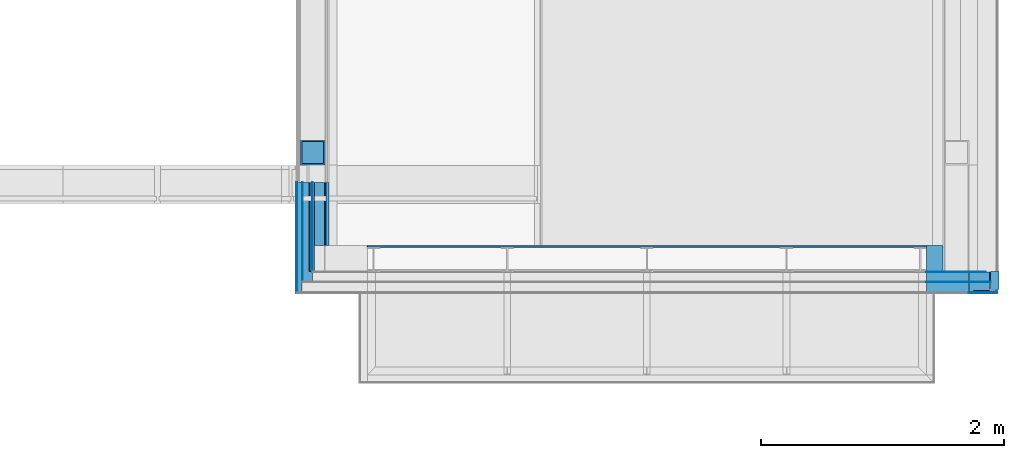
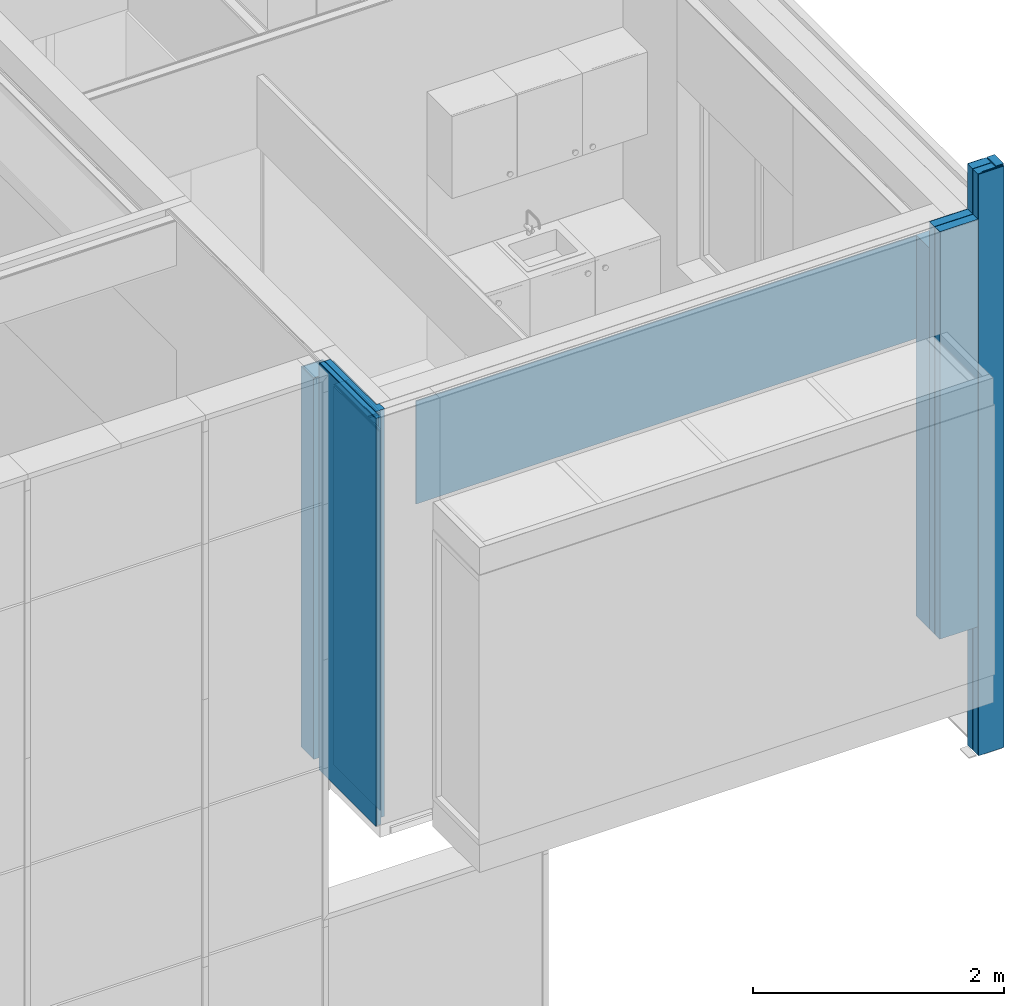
# One storey, part 64 of 137: 25 building element parts, 5 elements without a shape of their own.
"""IFC2X3 building model written with IfcOpenShell, lengths in millimetres."""

from ifc_helpers import new_model, entity, si_unit, converted_unit, derived_unit, money_unit, direction, frame, origin_with_axes, place, context, subcontext, project, spatial, faceted_brep, material, type_object, element, aggregate, save


model = new_model("IFC2X3")

# Units and contexts
model_context = context("Model", 3, precision=0.01, world=origin_with_axes(), true_north=direction((0.0, 1.0)))
body_context = subcontext(model_context, "Body", "Model", "MODEL_VIEW")
ifc_project = project(units=[si_unit("LENGTHUNIT", "METRE", prefix="MILLI"), si_unit("AREAUNIT", "SQUARE_METRE"), si_unit("VOLUMEUNIT", "CUBIC_METRE"), converted_unit("PLANEANGLEUNIT", "DEGREE", entity("IfcPlaneAngleMeasure", 0.0174532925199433), si_unit("PLANEANGLEUNIT", "RADIAN"), dimensions=[0, 0, 0, 0, 0, 0, 0]), money_unit("EUR"), converted_unit("TIMEUNIT", "Year", entity("IfcTimeMeasure", 31556926.0), si_unit("TIMEUNIT", "SECOND"), dimensions=[0, 0, 1, 0, 0, 0, 0]), si_unit("MASSUNIT", "GRAM", prefix="KILO"), si_unit("THERMODYNAMICTEMPERATUREUNIT", "DEGREE_CELSIUS"), si_unit("LUMINOUSINTENSITYUNIT", "LUMEN"), si_unit("ENERGYUNIT", "JOULE", prefix="MEGA"), derived_unit("THERMALCONDUCTANCEUNIT", [(si_unit("POWERUNIT", "WATT"), 1), (si_unit("LENGTHUNIT", "METRE"), -1), (si_unit("THERMODYNAMICTEMPERATUREUNIT", "KELVIN"), -1)]), derived_unit("SPECIFICHEATCAPACITYUNIT", [(si_unit("ENERGYUNIT", "JOULE"), 1), (si_unit("MASSUNIT", "GRAM", prefix="KILO"), -1), (si_unit("THERMODYNAMICTEMPERATUREUNIT", "KELVIN"), -1)]), derived_unit("MASSDENSITYUNIT", [(si_unit("MASSUNIT", "GRAM", prefix="KILO"), 1), (si_unit("VOLUMEUNIT", "CUBIC_METRE"), -1)])], contexts=[model_context])

# Site, building, storey
site_placement = place(None, origin_with_axes())
site = spatial("IfcSite", under=ifc_project, at=site_placement, Name="Site", CompositionType="ELEMENT")
building_placement = place(site_placement, origin_with_axes())
building = spatial("IfcBuilding", under=site, at=building_placement, Name="Naam gebouw", CompositionType="ELEMENT")
storey_placement = place(building_placement, frame((0.0, 0.0, 3960.0), z_axis=(0.0, 0.0, 1.0), x_axis=(1.0, 0.0, 0.0)))
storey = spatial("IfcBuildingStorey", under=building, at=storey_placement, Name="1e verdieping", CompositionType="ELEMENT", Elevation=3960.0)

# Wall, building element parts
wall_type_1 = type_object("IfcWallType", Name="21 STO Buitengevelisolatie 160 390", PredefinedType="NOTDEFINED")
wall_1_placement = place(storey_placement, frame((29899.99999999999, 3599.999999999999, -100.0000000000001), z_axis=(0.0, 0.0, 1.0), x_axis=(-0.9999999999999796, 2.024838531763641e-07, 0.0)))
wall_1 = element("IfcWall", 1, at=wall_1_placement, inside=storey, type_object=wall_type_1, Name="21_Wand-x")
ifc_material_1 = material(Name="STO lijmlaag")
building_element_part_1_placement = place(wall_1_placement, origin_with_axes())
building_element_part_1 = element("IfcBuildingElementPart", 2, at=building_element_part_1_placement, material=ifc_material_1, Name="STO lijmlaag", context=body_context, shape_type="Brep", body=[
    faceted_brep([(-1.781857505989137e-05, 87.99999850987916, 3960.0), (-1.700863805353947e-05, 83.99999776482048, 3960.0), (350.0000000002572, 84.00000491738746, 3960.0), (350.0000000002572, 87.99999508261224, 3960.0), (-1.700863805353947e-05, 83.99999776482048, 0.0), (-1.781857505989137e-05, 87.99999850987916, 0.0), (349.9998979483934, 83.99999999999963, 0.0), (349.9998930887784, 87.99999999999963, 0.0)], [[[0, 1, 2, 3]], [[4, 1, 0, 5]], [[1, 4, 6, 2]], [[7, 3, 2, 6]], [[5, 0, 3, 7]], [[4, 5, 7, 6]]]),
    faceted_brep([(-180.0000178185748, 87.99996093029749, 3960.000000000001), (-180.0000170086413, 83.99996801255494, 3960.0), (-170.0000170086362, 83.99996334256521, 3960.0), (-170.0000178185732, 87.9999640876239, 3960.0), (-180.0000170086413, 83.99996792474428, 0.0), (-180.0000178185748, 87.99996093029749, 0.0), (-170.0000170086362, 83.99996334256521, 0.0), (-170.0000178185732, 87.9999640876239, 0.0)], [[[0, 1, 2, 3]], [[4, 1, 0, 5]], [[1, 4, 6, 2]], [[3, 2, 6, 7]], [[5, 0, 3, 7]], [[4, 5, 7, 6]]]),
])
building_element_part_2_placement = place(wall_1_placement, origin_with_axes())
building_element_part_2 = element("IfcBuildingElementPart", 3, at=building_element_part_2_placement, material=ifc_material_1, Name="STO lijmlaag", context=body_context, shape_type="Brep", body=[
    faceted_brep([(350.0000000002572, 4.917387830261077e-06, 3960.0), (0.0, 2.458694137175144e-06, 3960.0), (0.0, 0.0, 0.0), (350.0000000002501, 0.0, 0.0), (350.0000000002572, 3.999995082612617, 3960.0), (-8.09933453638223e-07, 3.99999754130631, 3960.0), (-8.09933453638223e-07, 3.999999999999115, 0.0), (349.9999951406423, 3.999999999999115, 0.0)], [[[0, 1, 2, 3]], [[0, 4, 5, 1]], [[2, 1, 5, 6]], [[7, 3, 2, 6]], [[4, 0, 3, 7]], [[4, 7, 6, 5]]]),
])
ifc_material_2 = material(Name="Isolatie - STO EPS")
building_element_part_3_placement = place(wall_1_placement, origin_with_axes())
building_element_part_3 = element("IfcBuildingElementPart", 4, at=building_element_part_3_placement, material=ifc_material_2, Name="Isolatie - STO EPS", context=body_context, shape_type="Brep", body=[
    faceted_brep([(-1.700864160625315e-05, 83.99999999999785, 3960.0), (-8.09933453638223e-07, 3.999999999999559, 3960.0), (350.0000000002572, 3.999995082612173, 3960.0), (350.0000000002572, 84.00000491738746, 3960.0), (-8.09933453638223e-07, 3.999999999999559, 0.0), (-1.700864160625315e-05, 83.99999999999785, 0.0), (349.9999951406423, 4.000000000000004, 0.0), (349.9998979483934, 83.99999999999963, 0.0)], [[[0, 1, 2, 3]], [[4, 1, 0, 5]], [[1, 4, 6, 2]], [[7, 3, 2, 6]], [[5, 0, 3, 7]], [[4, 5, 7, 6]]]),
    faceted_brep([(-170.0000008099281, 3.999965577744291, 0.0), (-170.0000008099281, 3.999965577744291, 3960.0), (-180.0000008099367, 3.999998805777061, 3960.0), (-180.0000008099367, 4.000000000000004, 0.0), (-170.0000170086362, 83.99996557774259, 3960.0), (-170.0000170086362, 83.99996557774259, 0.0), (-180.0000170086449, 84.00000119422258, 3960.0), (-180.0000170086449, 83.99999999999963, 0.0)], [[[0, 1, 2, 3]], [[4, 1, 0, 5]], [[1, 4, 6, 2]], [[3, 2, 6, 7]], [[5, 0, 3, 7]], [[4, 5, 7, 6]]]),
])
ifc_material_3 = material(Name="Steen - Kalkzandsteen C")
building_element_part_4_placement = place(wall_1_placement, origin_with_axes())
building_element_part_4 = element("IfcBuildingElementPart", 5, at=building_element_part_4_placement, material=ifc_material_3, Name="Steen - Kalkzandsteen C", context=body_context, shape_type="Brep", body=[
    faceted_brep([(213.9999999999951, 4.333154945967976e-05, 3700.0), (213.9999999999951, 4.333154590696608e-05, 3695.000001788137), (214.0000433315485, -214.0, 3695.000001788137), (214.0000433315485, -214.0, 3700.0), (299.0000049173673, 6.054267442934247e-05, 3685.000001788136), (299.0000049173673, 6.054267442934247e-05, 3695.000001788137), (350.000000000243, 7.086935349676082e-05, 3700.0), (350.0000000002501, 0.0, 0.0), (214.0000000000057, 0.0, 0.0), (213.9999999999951, 4.333154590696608e-05, 3685.000001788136), (299.0000482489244, -213.9999999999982, 3695.000001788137), (299.0000482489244, -213.9999999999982, 3685.000001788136), (214.0000433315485, -214.0, 3685.000001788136), (214.0000433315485, -214.0, 0.0), (350.0002599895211, -214.0000000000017, 0.0), (350.0000000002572, -214.0000000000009, 2970.0), (350.0000000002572, -214.0000000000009, 3700.0)], [[[0, 1, 2, 3]], [[4, 5, 1, 0, 6, 7, 8, 9]], [[5, 10, 2, 1]], [[10, 11, 12, 13, 14, 15, 16, 3, 2]], [[16, 6, 0, 3]], [[4, 11, 10, 5]], [[14, 7, 6, 16, 15]], [[14, 13, 8, 7]], [[13, 12, 9, 8]], [[4, 9, 12, 11]]]),
])

wall_type_2 = type_object("IfcWallType", Name="21 STO Buitengevelisolatie 120 271", PredefinedType="NOTDEFINED")
wall_2_placement = place(storey_placement, frame((24499.99903999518, 3600.0, -100.0000000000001), z_axis=(0.0, 0.0, 1.0), x_axis=(0.0, 1.0, 0.0)))
wall_2 = element("IfcWall", 6, at=wall_2_placement, inside=storey, type_object=wall_type_2, Name="21_Wand-x")
ifc_material_4 = material(Name="STO pleisterlaag")
building_element_part_5_placement = place(wall_2_placement, origin_with_axes())
building_element_part_5 = element("IfcBuildingElementPart", 7, at=building_element_part_5_placement, material=ifc_material_4, Name="STO pleisterlaag", context=body_context, shape_type="Brep", body=[
    faceted_brep([(734.757636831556, 136.0000000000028, 3955.000048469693), (734.757636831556, 133.0000000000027, 3955.000048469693), (734.757636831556, 133.0000000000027, 0.0), (734.757636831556, 136.0000000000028, 0.0), (9.210004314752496e-06, 132.9999999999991, 3955.000048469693), (8.938350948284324e-06, 135.9999999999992, 3955.000048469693), (9.210004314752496e-06, 132.9999999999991, 3960.0), (-176.0000053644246, 132.9999999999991, 3960.0), (-176.0000000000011, 132.9999999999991, 0.0), (-176.0000000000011, 135.9999999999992, 0.0), (-176.0000053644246, 135.9999999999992, 3960.0), (8.938350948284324e-06, 135.9999999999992, 3960.0)], [[[0, 1, 2, 3]], [[4, 1, 0, 5]], [[4, 6, 7, 8, 2, 1]], [[9, 3, 2, 8]], [[5, 0, 3, 9, 10, 11]], [[4, 5, 11, 6]], [[6, 11, 10, 7]], [[10, 9, 8, 7]]]),
])
building_element_part_6_placement = place(wall_2_placement, origin_with_axes())
building_element_part_6 = element("IfcBuildingElementPart", 8, at=building_element_part_6_placement, material=ifc_material_2, Name="Isolatie - STO EPS", context=body_context, shape_type="Brep", body=[
    faceted_brep([(734.757636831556, 128.0000000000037, 3955.000048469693), (734.757636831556, 88.00000000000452, 3955.000048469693), (734.757636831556, 88.00000000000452, 0.0), (734.757636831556, 128.0000000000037, 0.0), (1.328479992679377e-05, 88.00000000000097, 3955.000048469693), (9.662759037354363e-06, 128.0000000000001, 3955.000048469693), (1.328479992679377e-05, 88.00000000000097, 3960.0), (-168.0000000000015, 88.00000000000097, 3960.0), (-168.0000000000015, 88.00000000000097, 0.0), (-168.0000000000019, 128.0000000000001, 0.0), (-168.0000000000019, 128.0000000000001, 3960.0), (9.662759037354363e-06, 128.0000000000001, 3960.0)], [[[0, 1, 2, 3]], [[4, 1, 0, 5]], [[4, 6, 7, 8, 2, 1]], [[3, 2, 8, 9]], [[5, 0, 3, 9, 10, 11]], [[4, 5, 11, 6]], [[6, 11, 10, 7]], [[9, 8, 7, 10]]]),
])
ifc_material_5 = material(Name="STO weefsellaag")
building_element_part_7_placement = place(wall_2_placement, origin_with_axes())
building_element_part_7 = element("IfcBuildingElementPart", 9, at=building_element_part_7_placement, material=ifc_material_5, Name="STO weefsellaag", context=body_context, shape_type="Brep", body=[
    faceted_brep([(734.757636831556, 133.0000000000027, 3955.000048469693), (734.757636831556, 128.0000000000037, 3955.000048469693), (734.757636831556, 128.0000000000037, 0.0), (734.757636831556, 133.0000000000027, 0.0), (9.662759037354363e-06, 128.0000000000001, 3955.000048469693), (9.210004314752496e-06, 132.9999999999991, 3955.000048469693), (9.662759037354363e-06, 128.0000000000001, 3960.0), (-173.0000000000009, 128.0000000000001, 3960.0), (-173.0000000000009, 128.0000000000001, 0.0), (-173.0000000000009, 132.9999999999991, 0.0), (-173.0000000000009, 132.9999999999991, 3960.0), (9.210004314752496e-06, 132.9999999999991, 3960.0)], [[[0, 1, 2, 3]], [[4, 1, 0, 5]], [[4, 6, 7, 8, 2, 1]], [[3, 2, 8, 9]], [[5, 0, 3, 9, 10, 11]], [[4, 5, 11, 6]], [[6, 11, 10, 7]], [[9, 8, 7, 10]]]),
])
building_element_part_8_placement = place(wall_2_placement, origin_with_axes())
building_element_part_8 = element("IfcBuildingElementPart", 10, at=building_element_part_8_placement, material=ifc_material_2, Name="Isolatie - STO EPS", context=body_context, shape_type="Brep", body=[
    faceted_brep([(734.757636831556, 84.00000000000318, 3955.000048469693), (734.757636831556, 31.00000953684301, 3955.000048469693), (734.757636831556, 31.00000953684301, 3694.999999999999), (734.757636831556, 46.00000834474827, 3694.999999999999), (734.757636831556, 46.00000834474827, 3680.000001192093), (734.757636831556, 4.000000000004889, 3680.000001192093), (734.757636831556, 4.000000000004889, 0.0), (734.757636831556, 84.00000000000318, 0.0), (1.844620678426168e-05, 31.00000953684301, 3955.000048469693), (1.364700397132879e-05, 83.99999999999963, 3955.000048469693), (0.0, 31.00000953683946, 3694.999999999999), (0.0, 46.00000834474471, 3694.999999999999), (0.0, 46.00000834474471, 3680.000001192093), (0.0, 4.000000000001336, 3680.000001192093), (0.0, 4.000000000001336, 3694.999999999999), (734.757636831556, 4.000000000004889, 3694.999999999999), (734.757636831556, 4.000000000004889, 3929.999999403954), (0.0, 4.000000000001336, 3929.999999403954), (0.0, 4.000000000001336, 3960.000001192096), (-84.00000110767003, 4.000000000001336, 3960.0), (-83.99999999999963, 4.000000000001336, 0.0), (-84.00000000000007, 83.99999999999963, 0.0), (-84.00000043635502, 83.99999999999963, 3960.0), (1.364700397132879e-05, 83.99999999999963, 3960.0), (1.844620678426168e-05, 31.00000953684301, 3960.000001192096), (0.0, 25.00000834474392, 3929.999999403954), (0.0, 25.00000834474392, 3694.999999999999), (734.757636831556, 25.00000834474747, 3694.999999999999), (734.757636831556, 25.00000834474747, 3929.999999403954)], [[[0, 1, 2, 3, 4, 5, 6, 7]], [[8, 1, 0, 9]], [[1, 8, 10, 2]], [[11, 3, 2, 10]], [[12, 4, 3, 11]], [[12, 13, 5, 4]], [[13, 14, 15, 16, 17, 18, 19, 20, 6, 5]], [[21, 7, 6, 20]], [[9, 0, 7, 21, 22, 23]], [[8, 9, 23, 24]], [[8, 24, 18, 17, 25, 26, 14, 13, 12, 11, 10]], [[26, 27, 15, 14]], [[15, 27, 28, 16]], [[25, 17, 16, 28]], [[24, 23, 22, 19, 18]], [[22, 21, 20, 19]], [[25, 28, 27, 26]]]),
])
building_element_part_9_placement = place(wall_2_placement, origin_with_axes())
building_element_part_9 = element("IfcBuildingElementPart", 11, at=building_element_part_9_placement, material=ifc_material_1, Name="STO lijmlaag", context=body_context, shape_type="Brep", body=[
    faceted_brep([(734.757636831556, 88.00000000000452, 3955.000048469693), (734.757636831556, 84.00000000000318, 3955.000048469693), (734.757636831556, 84.00000000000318, 0.0), (734.757636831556, 88.00000000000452, 0.0), (1.364700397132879e-05, 83.99999999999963, 3955.000048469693), (1.328479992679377e-05, 88.00000000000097, 3955.000048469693), (1.364700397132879e-05, 83.99999999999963, 3960.0), (-87.99999956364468, 83.99999999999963, 3960.0), (-87.99999999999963, 83.99999999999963, 0.0), (-87.99999999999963, 88.00000000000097, 0.0), (-87.99999959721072, 88.00000000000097, 3960.0), (1.328479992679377e-05, 88.00000000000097, 3960.0)], [[[0, 1, 2, 3]], [[4, 1, 0, 5]], [[4, 6, 7, 8, 2, 1]], [[3, 2, 8, 9]], [[5, 0, 3, 9, 10, 11]], [[4, 5, 11, 6]], [[6, 11, 10, 7]], [[9, 8, 7, 10]]]),
])

# Building element part
building_element_part_10_placement = place(wall_1_placement, origin_with_axes())
building_element_part_10 = element("IfcBuildingElementPart", 12, at=building_element_part_10_placement, material=ifc_material_2, Name="Isolatie - STO EPS", context=body_context, shape_type="Brep", body=[
    faceted_brep([(-3.40172832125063e-05, 167.9999995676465, 3960.0), (-1.781857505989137e-05, 87.99999884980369, 3960.0), (350.0000000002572, 87.99999508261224, 3960.0), (350.0000000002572, 168.0000000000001, 3960.0), (-1.781857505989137e-05, 87.99999884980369, 0.0), (-3.40172832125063e-05, 167.9999995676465, 0.0), (349.9998930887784, 87.99999999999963, 0.0), (349.9997958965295, 168.0000000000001, 0.0)], [[[0, 1, 2, 3]], [[4, 1, 0, 5]], [[1, 4, 6, 2]], [[7, 3, 2, 6]], [[5, 0, 3, 7]], [[4, 5, 7, 6]]]),
])

aggregate(wall_1, [building_element_part_1, building_element_part_2, building_element_part_3, building_element_part_4, building_element_part_10])

building_element_part_11_placement = place(wall_2_placement, origin_with_axes())
building_element_part_11 = element("IfcBuildingElementPart", 13, at=building_element_part_11_placement, material=ifc_material_1, Name="STO lijmlaag", context=body_context, shape_type="Brep", body=[
    faceted_brep([(734.757636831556, 0.0, 3929.999999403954), (0.0, 0.0, 3929.999999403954), (0.0, 0.0, 3960.000001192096), (-3.999998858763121, 0.0, 3960.0), (-3.999999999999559, 0.0, 0.0), (734.757636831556, 0.0, 0.0), (734.757636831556, 0.0, 3680.000001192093), (0.0, 0.0, 3680.000001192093), (0.0, 0.0, 3694.999999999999), (734.757636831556, 0.0, 3694.999999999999), (0.0, 4.000000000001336, 3929.999999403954), (734.757636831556, 4.000000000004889, 3929.999999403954), (0.0, 4.000000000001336, 3960.000001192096), (-3.99999889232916, 4.000000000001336, 3960.0), (-3.999999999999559, 4.000000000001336, 0.0), (734.757636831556, 4.000000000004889, 0.0), (734.757636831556, 4.000000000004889, 3680.000001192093), (0.0, 4.000000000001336, 3680.000001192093), (0.0, 4.000000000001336, 3694.999999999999), (734.757636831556, 4.000000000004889, 3694.999999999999)], [[[0, 1, 2, 3, 4, 5, 6, 7, 8, 9]], [[10, 1, 0, 11]], [[10, 12, 2, 1]], [[3, 2, 12, 13]], [[13, 14, 4, 3]], [[14, 15, 5, 4]], [[15, 16, 6, 5]], [[17, 7, 6, 16]], [[18, 8, 7, 17]], [[18, 19, 9, 8]], [[19, 11, 0, 9]], [[12, 10, 11, 19, 18, 17, 16, 15, 14, 13]]]),
])

building_element_part_12_placement = place(wall_2_placement, origin_with_axes())
building_element_part_12 = element("IfcBuildingElementPart", 14, at=building_element_part_12_placement, material=ifc_material_3, Name="Steen - Kalkzandsteen C", context=body_context, shape_type="Brep", body=[
    faceted_brep([(734.757636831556, 0.0, 3680.000001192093), (734.757636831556, -11.9999999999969, 3680.000001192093), (734.757636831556, -11.9999999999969, 0.0), (734.757636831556, 0.0, 0.0), (0.0, -12.00000000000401, 3680.000001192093), (0.0, 0.0, 3680.000001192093), (0.0, -12.00000000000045, 0.0), (0.0, 0.0, 0.0)], [[[0, 1, 2, 3]], [[4, 1, 0, 5]], [[1, 4, 6, 2]], [[3, 2, 6, 7]], [[5, 0, 3, 7]], [[4, 5, 7, 6]]]),
    faceted_brep([(0.0, -12.00000000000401, 3694.999999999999), (734.757636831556, -11.9999999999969, 3694.999999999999), (734.757636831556, -11.9999999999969, 3700.0), (0.0, -12.00000000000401, 3700.0), (734.757636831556, 0.0, 3694.999999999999), (0.0, 0.0, 3694.999999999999), (734.757636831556, 0.0, 3700.0), (0.0, 0.0, 3700.0)], [[[0, 1, 2, 3]], [[4, 1, 0, 5]], [[1, 4, 6, 2]], [[7, 3, 2, 6]], [[5, 0, 3, 7]], [[4, 5, 7, 6]]]),
])

ifc_material_6 = material(Name="ALG - ISOLATIE")
building_element_part_13_placement = place(wall_2_placement, origin_with_axes())
building_element_part_13 = element("IfcBuildingElementPart", 15, at=building_element_part_13_placement, material=ifc_material_6, Name="ALG - ISOLATIE", context=body_context, shape_type="Brep", body=[
    faceted_brep([(214.0000000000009, -94.99999046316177, 3700.0), (734.7576368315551, -94.99999046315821, 3700.0), (734.7576368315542, -11.9999999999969, 3700.0), (214.0000000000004, -12.00000000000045, 3700.0), (734.7576368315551, -94.99999046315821, 3694.999999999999), (214.0000000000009, -94.99999046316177, 3694.999999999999), (734.7576368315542, -11.9999999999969, 3694.999999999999), (214.0000000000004, -12.00000000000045, 3694.999999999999)], [[[0, 1, 2, 3]], [[4, 1, 0, 5]], [[4, 6, 2, 1]], [[6, 7, 3, 2]], [[5, 0, 3, 7]], [[6, 4, 5, 7]]]),
    faceted_brep([(734.7576368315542, -11.9999999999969, 3680.000001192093), (734.7576368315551, -109.9999999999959, 3680.000001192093), (734.7576368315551, -109.9999999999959, 0.0), (734.7576368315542, -11.9999999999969, 0.0), (214.0000000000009, -109.9999999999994, 3680.000001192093), (214.0000000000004, -12.00000000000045, 3680.000001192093), (214.0000000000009, -109.9999999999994, 0.0), (214.0000000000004, -12.00000000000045, 0.0)], [[[0, 1, 2, 3]], [[4, 1, 0, 5]], [[1, 4, 6, 2]], [[3, 2, 6, 7]], [[5, 0, 3, 7]], [[4, 5, 7, 6]]]),
    faceted_brep([(214.0000000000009, -109.9999999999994, 3694.999999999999), (734.7576368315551, -109.9999999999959, 3694.999999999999), (734.7576368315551, -109.9999999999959, 3700.0), (214.0000000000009, -109.9999999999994, 3700.0), (734.7576368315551, -100.9999999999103, 3694.999999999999), (214.0000000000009, -100.9999999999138, 3694.999999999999), (734.7576368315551, -100.9999999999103, 3700.0), (214.0000000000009, -100.9999999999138, 3700.0)], [[[0, 1, 2, 3]], [[4, 1, 0, 5]], [[4, 6, 2, 1]], [[6, 7, 3, 2]], [[5, 0, 3, 7]], [[7, 6, 4, 5]]]),
])

ifc_material_7 = material(Name="Gipsplaat")
building_element_part_14_placement = place(wall_2_placement, origin_with_axes())
building_element_part_14 = element("IfcBuildingElementPart", 16, at=building_element_part_14_placement, material=ifc_material_7, Name="Gipsplaat", context=body_context, shape_type="Brep", body=[
    faceted_brep([(734.7576368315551, -109.9999999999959, 3680.000001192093), (734.7576368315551, -134.9999999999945, 3680.000001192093), (734.7576368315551, -134.999999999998, 0.0), (734.7576368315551, -109.9999999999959, 0.0), (214.0000000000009, -134.999999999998, 3680.000001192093), (214.0000000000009, -109.9999999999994, 3680.000001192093), (214.0000000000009, -135.0000000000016, 0.0), (214.0000000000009, -109.9999999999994, 0.0)], [[[0, 1, 2, 3]], [[4, 1, 0, 5]], [[1, 4, 6, 2]], [[3, 2, 6, 7]], [[5, 0, 3, 7]], [[4, 5, 7, 6]]]),
    faceted_brep([(214.0000000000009, -134.999999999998, 3694.999999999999), (734.7576368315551, -134.9999999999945, 3694.999999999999), (734.7576368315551, -134.9999999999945, 3700.0), (214.0000000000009, -134.999999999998, 3700.0), (734.7576368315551, -109.9999999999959, 3694.999999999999), (214.0000000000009, -109.9999999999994, 3694.999999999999), (734.7576368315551, -109.9999999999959, 3700.0), (214.0000000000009, -109.9999999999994, 3700.0)], [[[0, 1, 2, 3]], [[4, 1, 0, 5]], [[1, 4, 6, 2]], [[7, 3, 2, 6]], [[5, 0, 3, 7]], [[4, 5, 7, 6]]]),
])

aggregate(wall_2, [building_element_part_5, building_element_part_6, building_element_part_7, building_element_part_8, building_element_part_9, building_element_part_11, building_element_part_12, building_element_part_13, building_element_part_14])

# Column, building element parts
column_type_1 = type_object("IfcColumnType", Name="200X200X10 200 x 200", PredefinedType="COLUMN")
column_1_placement = place(storey_placement, frame((24499.99877127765, 4579.999999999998, -100.0000000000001), z_axis=(0.0, 0.0, 1.0), x_axis=(1.0, 0.0, 0.0)))
column_1 = element("IfcColumn", 17, at=column_1_placement, inside=storey, type_object=column_type_1, Name="28_Kolom-x", ObjectType="COLUMN")
ifc_material_8 = material(Name="Metaal - Staal C")
building_element_part_15_placement = place(column_1_placement, origin_with_axes())
building_element_part_15 = element("IfcBuildingElementPart", 18, at=building_element_part_15_placement, material=ifc_material_8, Name="Metaal - Staal C", context=body_context, shape_type="Brep", body=[
    faceted_brep([(-100.0000000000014, -99.99999999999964, 0.0), (100.0000000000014, -99.99999999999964, 0.0), (100.0000000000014, -99.99999999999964, 3699.999999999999), (-100.0000000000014, -99.99999999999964, 3699.999999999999), (-100.0000000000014, 99.99999999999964, 0.0), (100.0000000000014, 99.99999999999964, 0.0), (-89.99999999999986, -89.99999999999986, 0.0), (89.99999999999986, -89.99999999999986, 0.0), (89.99999999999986, 89.99999999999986, 0.0), (-89.99999999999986, 89.99999999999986, 0.0), (100.0000000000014, 99.99999999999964, 3699.999999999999), (-100.0000000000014, 99.99999999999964, 3699.999999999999), (-89.99999999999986, -89.99999999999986, 3699.999999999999), (-89.99999999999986, 89.99999999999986, 3699.999999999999), (89.99999999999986, 89.99999999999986, 3699.999999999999), (89.99999999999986, -89.99999999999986, 3699.999999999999)], [[[0, 1, 2, 3]], [[0, 4, 5, 1], [6, 7, 8, 9]], [[1, 5, 10, 2]], [[3, 2, 10, 11], [12, 13, 14, 15]], [[4, 0, 3, 11]], [[5, 4, 11, 10]], [[7, 6, 12, 15]], [[8, 7, 15, 14]], [[9, 8, 14, 13]], [[6, 9, 13, 12]]]),
])
ifc_material_9 = material(Name="Beton gewapend C")
building_element_part_16_placement = place(column_1_placement, origin_with_axes())
building_element_part_16 = element("IfcBuildingElementPart", 19, at=building_element_part_16_placement, material=ifc_material_9, Name="Beton gewapend C", context=body_context, shape_type="Brep", body=[
    faceted_brep([(-89.99999999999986, 89.99999999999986, 3684.999999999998), (89.99999999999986, 89.99999999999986, 3684.999999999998), (89.99999999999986, 89.99999999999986, 0.0), (-89.99999999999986, 89.99999999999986, 0.0), (89.99999999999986, -89.99999999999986, 3684.999999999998), (-89.99999999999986, -89.99999999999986, 3684.999999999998), (89.99999999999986, -89.99999999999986, 0.0), (-89.99999999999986, -89.99999999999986, 0.0)], [[[0, 1, 2, 3]], [[4, 1, 0, 5]], [[1, 4, 6, 2]], [[2, 6, 7, 3]], [[5, 0, 3, 7]], [[4, 5, 7, 6]]]),
    faceted_brep([(89.99999999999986, -89.99999999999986, 3694.999999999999), (89.99999999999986, 89.99999999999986, 3694.999999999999), (89.99999999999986, 89.99999999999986, 3699.999999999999), (89.99999999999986, -89.99999999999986, 3699.999999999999), (-89.99999999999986, 89.99999999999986, 3694.999999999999), (-89.99999999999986, -89.99999999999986, 3694.999999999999), (-89.99999999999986, 89.99999999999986, 3699.999999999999), (-89.99999999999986, -89.99999999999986, 3699.999999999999)], [[[0, 1, 2, 3]], [[4, 1, 0, 5]], [[1, 4, 6, 2]], [[2, 6, 7, 3]], [[5, 0, 3, 7]], [[4, 5, 7, 6]]]),
])
aggregate(column_1, [building_element_part_15, building_element_part_16])

column_type_2 = type_object("IfcColumnType", Name="21 Hoekaansluiting stucwerk 250 x 176", PredefinedType="COLUMN")
column_2_placement = place(storey_placement, frame((29899.99999999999, 3599.999999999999, -1349.999987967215), z_axis=(0.0, 0.0, 1.0), x_axis=(1.0, 0.0, 0.0)))
column_2 = element("IfcColumn", 20, at=column_2_placement, inside=storey, type_object=column_type_2, Name="28_Kolom-x", ObjectType="COLUMN")
building_element_part_17_placement = place(column_2_placement, origin_with_axes())
building_element_part_17 = element("IfcBuildingElementPart", 21, at=building_element_part_17_placement, material=ifc_material_1, Name="STO lijmlaag", context=body_context, shape_type="Brep", body=[
    faceted_brep([(169.9999999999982, -87.99999850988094, 105.1152617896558), (169.9999999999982, -83.99999776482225, 105.1152617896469), (169.9999999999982, -83.99999776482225, 5649.999987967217), (169.9999999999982, -87.99999850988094, 5649.999987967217), (163.4534502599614, -83.99999776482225, 108.8949142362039), (163.4534502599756, -87.99999850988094, 108.8949142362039), (161.9534499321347, -83.99999776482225, 106.2968378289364), (161.9534499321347, -83.99999776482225, 0.0), (0.0, -83.99999776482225, 0.0), (0.0, -83.99999776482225, 5649.999987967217), (0.0, -87.99999850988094, 5649.999987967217), (0.0, -87.99999850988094, 0.0), (161.9534499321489, -87.99999850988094, 0.0), (161.9534499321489, -87.99999850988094, 106.2968378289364)], [[[0, 1, 2, 3]], [[4, 1, 0, 5]], [[6, 7, 8, 9, 2, 1, 4]], [[2, 9, 10, 3]], [[5, 0, 3, 10, 11, 12, 13]], [[6, 4, 5, 13]], [[7, 6, 13, 12]], [[7, 12, 11, 8]], [[9, 8, 11, 10]]]),
])
building_element_part_18_placement = place(column_2_placement, origin_with_axes())
building_element_part_18 = element("IfcBuildingElementPart", 22, at=building_element_part_18_placement, material=ifc_material_1, Name="STO lijmlaag", context=body_context, shape_type="Brep", body=[
    faceted_brep([(138.0000473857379, -8.94070151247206e-07, 5649.999987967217), (138.0000473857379, -8.94070151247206e-07, 0.0), (0.0, -8.94070151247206e-07, 0.0), (0.0, -8.94070151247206e-07, 5649.999987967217), (138.0000473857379, -3.999999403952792, 5649.999987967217), (138.0000473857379, -3.999999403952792, 0.0), (0.0, -3.999999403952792, 0.0), (0.0, -3.999999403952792, 5649.999987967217)], [[[0, 1, 2, 3]], [[4, 5, 1, 0]], [[2, 1, 5, 6]], [[3, 2, 6, 7]], [[4, 0, 3, 7]], [[7, 6, 5, 4]]]),
])
building_element_part_19_placement = place(column_2_placement, origin_with_axes())
building_element_part_19 = element("IfcBuildingElementPart", 23, at=building_element_part_19_placement, material=ifc_material_4, Name="STO pleisterlaag", context=body_context, shape_type="Brep", body=[
    faceted_brep([(231.9999967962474, -172.9999967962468, 0.0), (0.0, -172.9999967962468, 0.0), (0.0, -172.9999967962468, 5649.999987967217), (231.9999967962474, -172.9999967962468, 5649.999987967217), (231.9999967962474, -156.0000008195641, 0.0), (234.9999999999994, -156.0000008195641, 0.0), (234.9999999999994, -175.9999999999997, 0.0), (0.0, -175.9999999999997, 0.0), (0.0, -175.9999999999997, 5649.999987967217), (234.9999999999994, -175.9999999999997, 5649.999987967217), (234.9999999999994, -156.0000008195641, 5649.999987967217), (231.9999967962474, -156.0000008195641, 5649.999987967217)], [[[0, 1, 2, 3]], [[0, 4, 5, 6, 7, 1]], [[1, 7, 8, 2]], [[3, 2, 8, 9, 10, 11]], [[4, 0, 3, 11]], [[5, 4, 11, 10]], [[6, 5, 10, 9]], [[7, 6, 9, 8]]]),
])
building_element_part_20_placement = place(column_2_placement, origin_with_axes())
building_element_part_20 = element("IfcBuildingElementPart", 24, at=building_element_part_20_placement, material=ifc_material_5, Name="STO weefsellaag", context=body_context, shape_type="Brep", body=[
    faceted_brep([(0.0, -167.9999997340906, 0.0), (0.0, -172.9999985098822, 0.0), (0.0, -172.9999985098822, 5649.999987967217), (0.0, -167.9999997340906, 5649.999987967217), (226.9999962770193, -167.9999997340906, 0.0), (226.9999962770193, -155.9999992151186, 0.0), (231.9999985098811, -155.9999992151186, 0.0), (231.9999985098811, -172.9999985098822, 0.0), (231.9999985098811, -172.9999985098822, 5649.999987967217), (231.9999985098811, -155.9999992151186, 5649.999987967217), (226.9999962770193, -155.9999992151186, 5649.999987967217), (226.9999962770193, -167.9999997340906, 5649.999987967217)], [[[0, 1, 2, 3]], [[0, 4, 5, 6, 7, 1]], [[1, 7, 8, 2]], [[3, 2, 8, 9, 10, 11]], [[4, 0, 3, 11]], [[5, 4, 11, 10]], [[6, 5, 10, 9]], [[7, 6, 9, 8]]]),
])
ifc_material_10 = material(Name="Steen - Baksteen")
building_element_part_21_placement = place(column_2_placement, origin_with_axes())
building_element_part_21 = element("IfcBuildingElementPart", 25, at=building_element_part_21_placement, material=ifc_material_10, Name="Steen - Baksteen", context=body_context, shape_type="Brep", body=[
    faceted_brep([(250.0, 0.0, 5649.999987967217), (250.0, 0.0, 0.0), (179.9999999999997, 0.0, 0.0), (179.9999999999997, 0.0, 5649.999987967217), (250.0, -145.9999999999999, 5649.999987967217), (250.0, -145.9999999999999, 0.0), (179.9999999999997, -145.9999999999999, 0.0), (179.9999999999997, -87.99999737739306, 0.0), (179.9999999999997, -87.99999737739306, 5649.999987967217), (179.9999999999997, -145.9999999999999, 5649.999987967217)], [[[0, 1, 2, 3]], [[4, 5, 1, 0]], [[2, 1, 5, 6, 7]], [[3, 2, 7, 8]], [[4, 0, 3, 8, 9]], [[9, 6, 5, 4]], [[8, 7, 6, 9]]]),
])
ifc_material_11 = material(Name="Cementgebonden plaatmateriaal")
building_element_part_22_placement = place(column_2_placement, origin_with_axes())
building_element_part_22 = element("IfcBuildingElementPart", 26, at=building_element_part_22_placement, material=ifc_material_11, Name="Cementgebonden plaatmateriaal", context=body_context, shape_type="Brep", body=[
    faceted_brep([(41.9999989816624, -155.9999975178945, 0.0), (41.9999989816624, -168.0000021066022, 0.0), (41.9999989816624, -168.0000021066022, 5649.999987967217), (41.9999989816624, -155.9999975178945, 5649.999987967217), (226.9999986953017, -156.0000006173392, 0.0), (226.9999986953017, -168.0000021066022, 0.0), (226.9999986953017, -168.0000021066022, 5649.999987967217), (226.9999986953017, -156.0000006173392, 5649.999987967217)], [[[0, 1, 2, 3]], [[0, 4, 5, 1]], [[1, 5, 6, 2]], [[3, 2, 6, 7]], [[4, 0, 3, 7]], [[5, 4, 7, 6]]]),
])
building_element_part_23_placement = place(column_2_placement, origin_with_axes())
building_element_part_23 = element("IfcBuildingElementPart", 27, at=building_element_part_23_placement, material=ifc_material_2, Name="Isolatie - STO EPS", context=body_context, shape_type="Brep", body=[
    faceted_brep([(169.9999999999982, -83.99999999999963, 105.1152617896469), (169.9999999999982, -3.999999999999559, 105.1152617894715), (169.9999999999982, -3.999999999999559, 5649.999987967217), (169.9999999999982, -83.99999999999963, 5649.999987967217), (163.4534502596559, -3.999999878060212, 108.8949142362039), (163.4534502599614, -84.00000304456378, 108.8949142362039), (161.9534499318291, -3.999999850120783, 106.2968378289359), (161.9534499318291, -3.999999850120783, 0.0), (138.0000473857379, -3.999999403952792, 0.0), (138.0000473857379, -3.999999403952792, 5649.999987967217), (0.0, -83.99999999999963, 5649.999987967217), (0.0, -3.999999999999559, 5649.999987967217), (0.0, -83.99999999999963, 0.0), (161.9534499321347, -83.99999999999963, 0.0), (161.9534499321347, -84.00000301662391, 106.2968378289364), (0.0, -3.999999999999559, 0.0)], [[[0, 1, 2, 3]], [[4, 1, 0, 5]], [[6, 7, 8, 9, 2, 1, 4]], [[10, 3, 2, 9, 11]], [[5, 0, 3, 10, 12, 13, 14]], [[6, 4, 5, 14]], [[7, 6, 14, 13]], [[7, 13, 12, 15, 8]], [[9, 8, 15, 11]], [[11, 15, 12, 10]]]),
])
building_element_part_24_placement = place(column_2_placement, origin_with_axes())
building_element_part_24 = element("IfcBuildingElementPart", 28, at=building_element_part_24_placement, material=ifc_material_2, Name="Isolatie - STO EPS", context=body_context, shape_type="Brep", body=[
    faceted_brep([(170.0000001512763, -146.0000017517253, 0.0), (170.0000001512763, -146.0000017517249, 105.1152617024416), (170.0000001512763, -87.99999884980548, 105.1152617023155), (170.0000001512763, -87.99999884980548, 5649.999987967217), (170.0000001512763, -155.9999983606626, 5649.999987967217), (170.0000001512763, -155.9999983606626, 0.0), (161.9534499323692, -146.0000017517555, 0.0), (161.9534499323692, -146.0000017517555, 106.2968378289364), (163.4534502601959, -146.0000017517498, 108.8949142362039), (163.4534502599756, -87.99999884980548, 108.8949142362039), (161.9534499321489, -87.99999884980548, 106.2968378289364), (161.9534499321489, -87.99999884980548, 0.0), (0.0, -87.99999884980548, 0.0), (0.0, -87.99999884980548, 5649.999987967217), (0.0, -167.9999995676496, 5649.999987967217), (41.99999735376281, -167.9999995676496, 5649.999987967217), (41.99999735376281, -155.9999983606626, 5649.999987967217), (41.99999735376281, -155.9999983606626, 0.0), (41.99999735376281, -167.9999995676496, 0.0), (0.0, -167.9999995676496, 0.0)], [[[0, 1, 2, 3, 4, 5]], [[1, 0, 6, 7, 8]], [[9, 2, 1, 8]], [[10, 11, 12, 13, 3, 2, 9]], [[3, 13, 14, 15, 16, 4]], [[16, 17, 5, 4]], [[6, 0, 5, 17, 18, 19, 12, 11]], [[11, 10, 7, 6]], [[10, 9, 8, 7]], [[13, 12, 19, 14]], [[14, 19, 18, 15]], [[15, 18, 17, 16]]]),
])
aggregate(column_2, [building_element_part_17, building_element_part_18, building_element_part_19, building_element_part_20, building_element_part_21, building_element_part_22, building_element_part_23, building_element_part_24])

# Beam, building element part
beam_type = type_object("IfcBeamType", Name="31 HSB boven kozijnen 214 x 1000", PredefinedType="BEAM")
beam_placement = place(storey_placement, frame((24949.99903911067, 3813.999999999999, 2600.000000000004), z_axis=(0.0, 0.0, 1.0), x_axis=(1.540638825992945e-08, -0.9999999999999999, 0.0)))
beam = element("IfcBeam", 29, at=beam_placement, inside=storey, type_object=beam_type, Name="28_Balk-x", ObjectType="BEAM")
building_element_part_25_placement = place(beam_placement, origin_with_axes())
building_element_part_25 = element("IfcBuildingElementPart", 30, at=building_element_part_25_placement, material=ifc_material_7, Name="Gipsplaat", context=body_context, shape_type="Brep", body=[
    faceted_brep([(11.99999661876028, 4600.000744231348, 999.9999999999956), (-9.341709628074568e-06, 4600.000744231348, 999.9999999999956), (-9.341709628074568e-06, 0.0, 999.9999999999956), (11.99999661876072, 0.0, 999.9999999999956), (11.99999661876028, 4600.000744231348, 0.0), (-9.341710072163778e-06, 4600.000744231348, 0.0), (-9.341709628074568e-06, 0.0, 0.0), (11.99999661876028, 0.0, 0.0)], [[[0, 1, 2, 3]], [[0, 4, 5, 1]], [[1, 5, 6, 2]], [[3, 2, 6, 7]], [[4, 0, 3, 7]], [[5, 4, 7, 6]]]),
])
aggregate(beam, [building_element_part_25])

save(model, "model.ifc")
